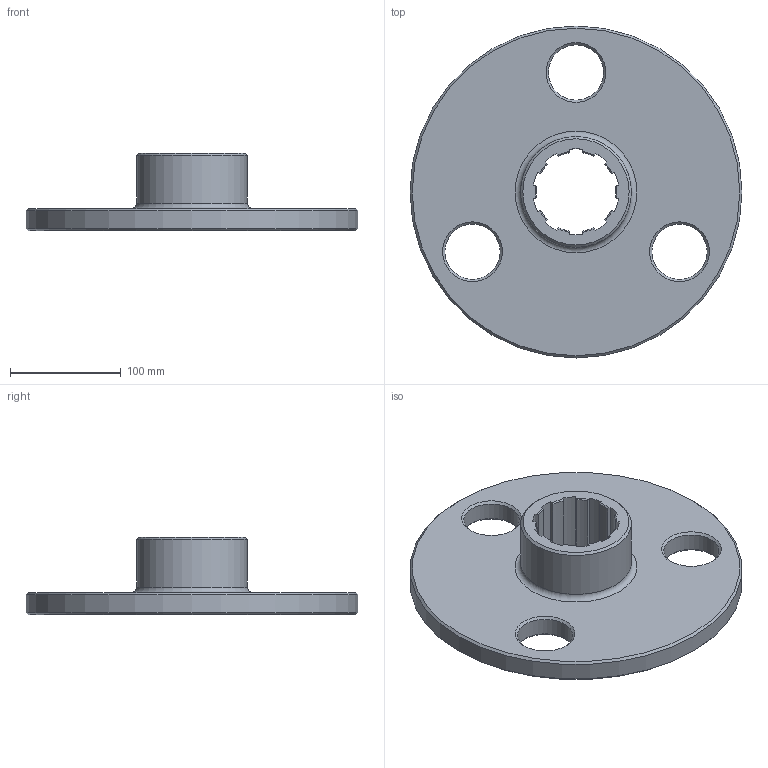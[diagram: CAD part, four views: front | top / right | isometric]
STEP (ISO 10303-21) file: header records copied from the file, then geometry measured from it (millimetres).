
FILE_DESCRIPTION(/* description */ (''),/* implementation_level */ '2;1');
FILE_NAME(/* name */ 'C:\Users\jbart\OneDrive\Plocha\Nová složka\3D modely - stp\Unášeč A-2.stp',/* time_stamp */ '2025-05-15T16:51:54+02:00',/* author */ ('jbart'),/* organization */ (''),/* preprocessor_version */ 'ST-DEVELOPER v18.1',/* originating_system */ 'Autodesk Inventor 2022',/* authorisation */ '');
FILE_SCHEMA (('AUTOMOTIVE_DESIGN { 1 0 10303 214 3 1 1 }'));
Length unit declared in the file: millimetre
Products named in the file (1): Unášeč A-2
Bounding box: 300 x 300 x 70 mm (x, y, z)
Volume: 1373598.9 mm3; surface area: 180320 mm2
Topology: 1 solids, 1 shells, 78 faces, 219 edges, 144 vertices
Faces by surface type: cone 29, cylinder 25, plane 23, torus 1
Full cylindrical faces by diameter (mm): 50 x3, 100 x1, 300 x1
Entity records: 2555 total; most frequent: CARTESIAN_POINT 522, ORIENTED_EDGE 438, DIRECTION 422, EDGE_CURVE 219, AXIS2_PLACEMENT_3D 164, VERTEX_POINT 144, LINE 94, VECTOR 94
